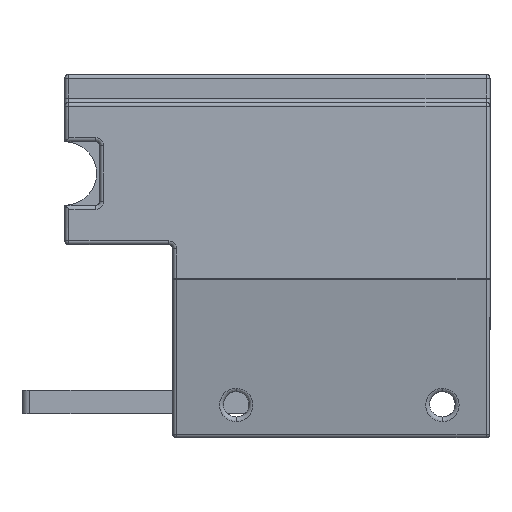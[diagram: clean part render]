
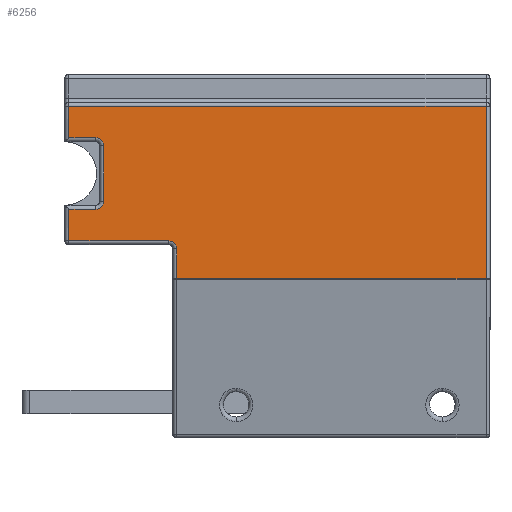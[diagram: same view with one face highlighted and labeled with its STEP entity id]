
A CAD part, front view. The second image highlights one B-rep face of the part: STEP entity #6256.
In plain terms, the highlighted planar face has unit normal (0, -1, 0).
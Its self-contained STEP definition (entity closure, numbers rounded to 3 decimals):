
#5 = CARTESIAN_POINT ( 'NONE',  ( -30.6, -32.5, 5.2 ) ) ;
#25 = AXIS2_PLACEMENT_3D ( 'NONE', #4041, #6385, #4139 ) ;
#85 = CARTESIAN_POINT ( 'NONE',  ( -30.6, -32.5, 22.2 ) ) ;
#111 = ORIENTED_EDGE ( 'NONE', *, *, #9696, .T. ) ;
#131 = CARTESIAN_POINT ( 'NONE',  ( -30.6, -32.5, 18.2 ) ) ;
#340 = VERTEX_POINT ( 'NONE', #2319 ) ;
#414 = ORIENTED_EDGE ( 'NONE', *, *, #6822, .F. ) ;
#658 = VERTEX_POINT ( 'NONE', #9330 ) ;
#769 = ORIENTED_EDGE ( 'NONE', *, *, #1120, .F. ) ;
#798 = EDGE_CURVE ( 'NONE', #6124, #7799, #5576, .T. ) ;
#896 = AXIS2_PLACEMENT_3D ( 'NONE', #3900, #4504, #9415 ) ;
#993 = EDGE_CURVE ( 'NONE', #2357, #1065, #5731, .T. ) ;
#1065 = VERTEX_POINT ( 'NONE', #3261 ) ;
#1120 = EDGE_CURVE ( 'NONE', #4133, #7799, #2370, .T. ) ;
#1194 = VECTOR ( 'NONE', #2854, 1000. ) ;
#1373 = VECTOR ( 'NONE', #7947, 1000. ) ;
#1408 = DIRECTION ( 'NONE',  ( 0., 1., 0. ) ) ;
#1552 = VECTOR ( 'NONE', #6394, 1000. ) ;
#1760 = LINE ( 'NONE', #9573, #7616 ) ;
#1829 = EDGE_CURVE ( 'NONE', #2357, #340, #6761, .T. ) ;
#1970 = DIRECTION ( 'NONE',  ( -1., 0., 0. ) ) ;
#2018 = LINE ( 'NONE', #6916, #3396 ) ;
#2205 = AXIS2_PLACEMENT_3D ( 'NONE', #2538, #4925, #3475 ) ;
#2319 = CARTESIAN_POINT ( 'NONE',  ( -26.2, -32.5, 17.2 ) ) ;
#2357 = VERTEX_POINT ( 'NONE', #8041 ) ;
#2370 = LINE ( 'NONE', #4759, #1373 ) ;
#2438 = CARTESIAN_POINT ( 'NONE',  ( -18., -32.5, 4.2 ) ) ;
#2538 = CARTESIAN_POINT ( 'NONE',  ( -27.2, -32.5, 10.2 ) ) ;
#2840 = LINE ( 'NONE', #8938, #8723 ) ;
#2854 = DIRECTION ( 'NONE',  ( 0., 0., 1. ) ) ;
#3004 = CARTESIAN_POINT ( 'NONE',  ( -18., -32.5, 5.2 ) ) ;
#3116 = VERTEX_POINT ( 'NONE', #5 ) ;
#3213 = FACE_OUTER_BOUND ( 'NONE', #5485, .T. ) ;
#3220 = ORIENTED_EDGE ( 'NONE', *, *, #7487, .F. ) ;
#3261 = CARTESIAN_POINT ( 'NONE',  ( -27.2, -32.5, 9.2 ) ) ;
#3289 = LINE ( 'NONE', #9637, #5048 ) ;
#3396 = VECTOR ( 'NONE', #6811, 1000. ) ;
#3475 = DIRECTION ( 'NONE',  ( 0., 0., 1. ) ) ;
#3504 = CARTESIAN_POINT ( 'NONE',  ( 0., -32.5, 22.2 ) ) ;
#3844 = ORIENTED_EDGE ( 'NONE', *, *, #1829, .F. ) ;
#3899 = ORIENTED_EDGE ( 'NONE', *, *, #7424, .F. ) ;
#3900 = CARTESIAN_POINT ( 'NONE',  ( -27.2, -32.5, 17.2 ) ) ;
#4041 = CARTESIAN_POINT ( 'NONE',  ( 0., -32.5, 0. ) ) ;
#4133 = VERTEX_POINT ( 'NONE', #8834 ) ;
#4139 = DIRECTION ( 'NONE',  ( 0., 0., 1. ) ) ;
#4231 = DIRECTION ( 'NONE',  ( 1., 0., 0. ) ) ;
#4300 = DIRECTION ( 'NONE',  ( -1., 0., 0. ) ) ;
#4316 = CARTESIAN_POINT ( 'NONE',  ( -26.2, -32.5, 0. ) ) ;
#4504 = DIRECTION ( 'NONE',  ( 0., 1., 0. ) ) ;
#4759 = CARTESIAN_POINT ( 'NONE',  ( -17., -32.5, 0. ) ) ;
#4794 = VECTOR ( 'NONE', #4231, 1000. ) ;
#4925 = DIRECTION ( 'NONE',  ( 0., 1., 0. ) ) ;
#4966 = VERTEX_POINT ( 'NONE', #6543 ) ;
#4995 = EDGE_CURVE ( 'NONE', #4966, #1065, #5559, .T. ) ;
#5048 = VECTOR ( 'NONE', #8172, 1000. ) ;
#5078 = CARTESIAN_POINT ( 'NONE',  ( -30.6, -32.5, 0. ) ) ;
#5175 = EDGE_CURVE ( 'NONE', #9491, #4133, #2840, .T. ) ;
#5376 = CIRCLE ( 'NONE', #896, 1. ) ;
#5485 = EDGE_LOOP ( 'NONE', ( #111, #3844, #8933, #6554, #6828, #9032, #6800, #769, #9034, #3220, #414, #3899, #8833 ) ) ;
#5559 = LINE ( 'NONE', #8108, #1552 ) ;
#5576 = CIRCLE ( 'NONE', #8235, 1. ) ;
#5710 = DIRECTION ( 'NONE',  ( -1., 0., 0. ) ) ;
#5716 = CARTESIAN_POINT ( 'NONE',  ( -17., -32.5, 4.2 ) ) ;
#5731 = CIRCLE ( 'NONE', #2205, 1. ) ;
#5933 = CARTESIAN_POINT ( 'NONE',  ( 0., -32.5, 5.2 ) ) ;
#6124 = VERTEX_POINT ( 'NONE', #3004 ) ;
#6256 = ADVANCED_FACE ( 'NONE', ( #3213 ), #8148, .F. ) ;
#6385 = DIRECTION ( 'NONE',  ( 0., 1., 0. ) ) ;
#6394 = DIRECTION ( 'NONE',  ( 1., 0., 0. ) ) ;
#6543 = CARTESIAN_POINT ( 'NONE',  ( -30.6, -32.5, 9.2 ) ) ;
#6554 = ORIENTED_EDGE ( 'NONE', *, *, #4995, .F. ) ;
#6761 = LINE ( 'NONE', #4316, #1194 ) ;
#6800 = ORIENTED_EDGE ( 'NONE', *, *, #798, .T. ) ;
#6811 = DIRECTION ( 'NONE',  ( 0., 0., -1. ) ) ;
#6822 = EDGE_CURVE ( 'NONE', #8154, #658, #9165, .T. ) ;
#6828 = ORIENTED_EDGE ( 'NONE', *, *, #7821, .F. ) ;
#6916 = CARTESIAN_POINT ( 'NONE',  ( 22., -32.5, 0. ) ) ;
#7424 = EDGE_CURVE ( 'NONE', #8176, #8154, #3289, .T. ) ;
#7487 = EDGE_CURVE ( 'NONE', #658, #9491, #2018, .T. ) ;
#7549 = VECTOR ( 'NONE', #8316, 1000. ) ;
#7616 = VECTOR ( 'NONE', #5710, 1000. ) ;
#7799 = VERTEX_POINT ( 'NONE', #5716 ) ;
#7821 = EDGE_CURVE ( 'NONE', #3116, #4966, #8995, .T. ) ;
#7947 = DIRECTION ( 'NONE',  ( 0., 0., 1. ) ) ;
#8041 = CARTESIAN_POINT ( 'NONE',  ( -26.2, -32.5, 10.2 ) ) ;
#8108 = CARTESIAN_POINT ( 'NONE',  ( 0., -32.5, 9.2 ) ) ;
#8148 = PLANE ( 'NONE',  #25 ) ;
#8154 = VERTEX_POINT ( 'NONE', #85 ) ;
#8172 = DIRECTION ( 'NONE',  ( 0., 0., 1. ) ) ;
#8176 = VERTEX_POINT ( 'NONE', #131 ) ;
#8235 = AXIS2_PLACEMENT_3D ( 'NONE', #2438, #1408, #9374 ) ;
#8316 = DIRECTION ( 'NONE',  ( 0., 0., 1. ) ) ;
#8723 = VECTOR ( 'NONE', #4300, 1000. ) ;
#8829 = EDGE_CURVE ( 'NONE', #6124, #3116, #9313, .T. ) ;
#8833 = ORIENTED_EDGE ( 'NONE', *, *, #9436, .F. ) ;
#8834 = CARTESIAN_POINT ( 'NONE',  ( -17., -32.5, 0.444 ) ) ;
#8847 = VERTEX_POINT ( 'NONE', #9937 ) ;
#8933 = ORIENTED_EDGE ( 'NONE', *, *, #993, .T. ) ;
#8938 = CARTESIAN_POINT ( 'NONE',  ( -17.5, -32.5, 0.444 ) ) ;
#8967 = VECTOR ( 'NONE', #1970, 1000. ) ;
#8995 = LINE ( 'NONE', #5078, #7549 ) ;
#9032 = ORIENTED_EDGE ( 'NONE', *, *, #8829, .F. ) ;
#9034 = ORIENTED_EDGE ( 'NONE', *, *, #5175, .F. ) ;
#9165 = LINE ( 'NONE', #3504, #4794 ) ;
#9313 = LINE ( 'NONE', #5933, #8967 ) ;
#9330 = CARTESIAN_POINT ( 'NONE',  ( 22., -32.5, 22.2 ) ) ;
#9374 = DIRECTION ( 'NONE',  ( 0., 0., 1. ) ) ;
#9415 = DIRECTION ( 'NONE',  ( 0., 0., 1. ) ) ;
#9436 = EDGE_CURVE ( 'NONE', #8847, #8176, #1760, .T. ) ;
#9491 = VERTEX_POINT ( 'NONE', #9733 ) ;
#9573 = CARTESIAN_POINT ( 'NONE',  ( 0., -32.5, 18.2 ) ) ;
#9637 = CARTESIAN_POINT ( 'NONE',  ( -30.6, -32.5, 0. ) ) ;
#9696 = EDGE_CURVE ( 'NONE', #8847, #340, #5376, .T. ) ;
#9733 = CARTESIAN_POINT ( 'NONE',  ( 22., -32.5, 0.444 ) ) ;
#9937 = CARTESIAN_POINT ( 'NONE',  ( -27.2, -32.5, 18.2 ) ) ;
